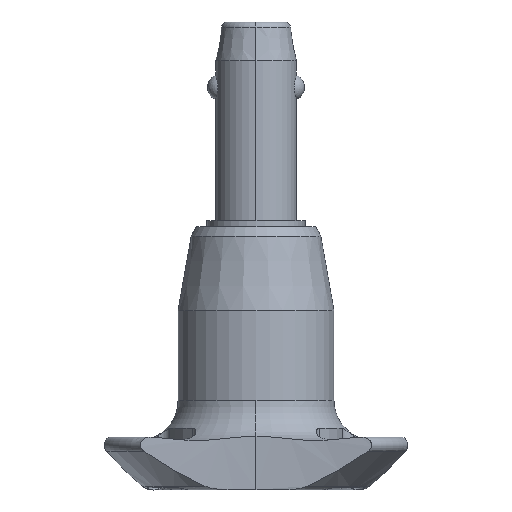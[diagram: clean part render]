
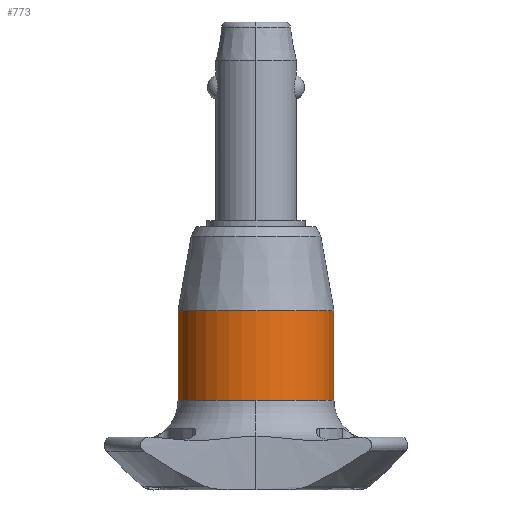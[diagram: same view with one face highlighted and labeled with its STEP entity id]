
A CAD part, left-side view. The second image highlights one B-rep face of the part: STEP entity #773.
In plain terms, the highlighted cylindrical face has radius 9.65 mm (diameter 19.3 mm), a partial arc.
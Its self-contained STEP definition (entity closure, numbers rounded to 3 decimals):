
#17 = CARTESIAN_POINT ( 'NONE',  ( 0., 9.65, -37.2 ) ) ;
#32 = CARTESIAN_POINT ( 'NONE',  ( 0., -9.65, -37.2 ) ) ;
#94 = LINE ( 'NONE', #1378, #2418 ) ;
#120 = ORIENTED_EDGE ( 'NONE', *, *, #1315, .F. ) ;
#124 = FACE_OUTER_BOUND ( 'NONE', #1349, .T. ) ;
#220 = CARTESIAN_POINT ( 'NONE',  ( -9.65, 0., -37.2 ) ) ;
#241 = AXIS2_PLACEMENT_3D ( 'NONE', #1107, #710, #1591 ) ;
#277 = DIRECTION ( 'NONE',  ( 0., 0., -1. ) ) ;
#372 = VERTEX_POINT ( 'NONE', #1010 ) ;
#443 = EDGE_CURVE ( 'NONE', #2329, #2214, #94, .T. ) ;
#572 = CYLINDRICAL_SURFACE ( 'NONE', #901, 9.65 ) ;
#695 = EDGE_CURVE ( 'NONE', #1596, #2214, #1208, .T. ) ;
#703 = CARTESIAN_POINT ( 'NONE',  ( 0., 9.65, -26.1 ) ) ;
#710 = DIRECTION ( 'NONE',  ( 0., 0., -1. ) ) ;
#773 = ADVANCED_FACE ( 'NONE', ( #124 ), #572, .T. ) ;
#857 = VERTEX_POINT ( 'NONE', #2260 ) ;
#901 = AXIS2_PLACEMENT_3D ( 'NONE', #1825, #1434, #2018 ) ;
#944 = DIRECTION ( 'NONE',  ( 0., 0., -1. ) ) ;
#950 = CARTESIAN_POINT ( 'NONE',  ( 0., 0., -37.2 ) ) ;
#951 = VECTOR ( 'NONE', #1092, 1000. ) ;
#1010 = CARTESIAN_POINT ( 'NONE',  ( 0., -9.65, -26.1 ) ) ;
#1092 = DIRECTION ( 'NONE',  ( 0., 0., -1. ) ) ;
#1095 = DIRECTION ( 'NONE',  ( 0., 1., 0. ) ) ;
#1107 = CARTESIAN_POINT ( 'NONE',  ( 0., 0., -37.2 ) ) ;
#1208 = CIRCLE ( 'NONE', #241, 9.65 ) ;
#1315 = EDGE_CURVE ( 'NONE', #857, #1596, #2060, .T. ) ;
#1348 = ORIENTED_EDGE ( 'NONE', *, *, #443, .T. ) ;
#1349 = EDGE_LOOP ( 'NONE', ( #1530, #1630, #1348, #2053, #120 ) ) ;
#1378 = CARTESIAN_POINT ( 'NONE',  ( 0., 9.65, -37.2 ) ) ;
#1383 = DIRECTION ( 'NONE',  ( 0., 0., -1. ) ) ;
#1434 = DIRECTION ( 'NONE',  ( 0., 0., -1. ) ) ;
#1530 = ORIENTED_EDGE ( 'NONE', *, *, #2762, .F. ) ;
#1591 = DIRECTION ( 'NONE',  ( 0., 1., 0. ) ) ;
#1596 = VERTEX_POINT ( 'NONE', #220 ) ;
#1630 = ORIENTED_EDGE ( 'NONE', *, *, #2728, .T. ) ;
#1802 = CIRCLE ( 'NONE', #2161, 9.65 ) ;
#1825 = CARTESIAN_POINT ( 'NONE',  ( 0., 0., -37.2 ) ) ;
#1921 = CARTESIAN_POINT ( 'NONE',  ( 0., 0., -26.1 ) ) ;
#2018 = DIRECTION ( 'NONE',  ( 0., 1., 0. ) ) ;
#2053 = ORIENTED_EDGE ( 'NONE', *, *, #695, .F. ) ;
#2060 = CIRCLE ( 'NONE', #2200, 9.65 ) ;
#2143 = LINE ( 'NONE', #32, #951 ) ;
#2161 = AXIS2_PLACEMENT_3D ( 'NONE', #1921, #277, #2601 ) ;
#2200 = AXIS2_PLACEMENT_3D ( 'NONE', #950, #1383, #1095 ) ;
#2214 = VERTEX_POINT ( 'NONE', #17 ) ;
#2260 = CARTESIAN_POINT ( 'NONE',  ( 0., -9.65, -37.2 ) ) ;
#2329 = VERTEX_POINT ( 'NONE', #703 ) ;
#2418 = VECTOR ( 'NONE', #944, 1000. ) ;
#2601 = DIRECTION ( 'NONE',  ( 0., 1., 0. ) ) ;
#2728 = EDGE_CURVE ( 'NONE', #372, #2329, #1802, .T. ) ;
#2762 = EDGE_CURVE ( 'NONE', #372, #857, #2143, .T. ) ;
